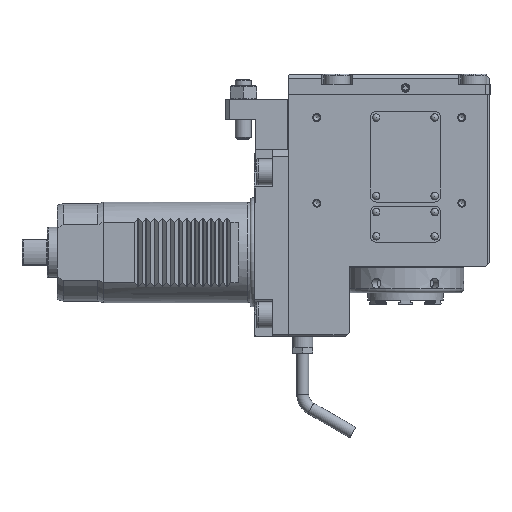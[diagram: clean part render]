
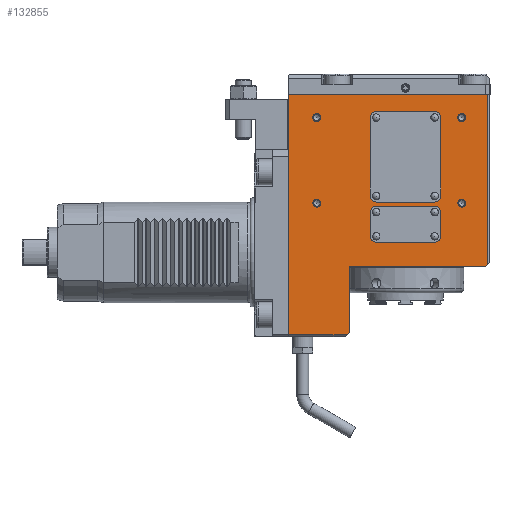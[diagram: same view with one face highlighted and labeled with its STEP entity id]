
A CAD part, front view. The second image highlights one B-rep face of the part: STEP entity #132855.
In plain terms, the highlighted planar face has unit normal (0, -1, 0) as drawn and (0, 0, -1) by its records, which use the part's own axes.
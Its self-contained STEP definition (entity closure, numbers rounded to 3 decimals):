
#47994=CIRCLE('',#127589,1.);
#47995=CIRCLE('',#127590,2.);
#47996=CIRCLE('',#127591,2.);
#47997=CIRCLE('',#127592,2.);
#47998=CIRCLE('',#127593,2.);
#47999=CIRCLE('',#127594,1.);
#48000=CIRCLE('',#127595,1.);
#48001=CIRCLE('',#127596,1.);
#48002=CIRCLE('',#127597,1.);
#48003=CIRCLE('',#127598,1.);
#48004=CIRCLE('',#127599,1.);
#48005=CIRCLE('',#127600,1.);
#52383=ORIENTED_EDGE('',*,*,#65877,.F.);
#52384=ORIENTED_EDGE('',*,*,#65880,.F.);
#52385=ORIENTED_EDGE('',*,*,#65906,.F.);
#52386=ORIENTED_EDGE('',*,*,#65907,.F.);
#52387=ORIENTED_EDGE('',*,*,#65908,.F.);
#52388=ORIENTED_EDGE('',*,*,#65892,.F.);
#52389=ORIENTED_EDGE('',*,*,#65857,.F.);
#52390=ORIENTED_EDGE('',*,*,#65862,.F.);
#52391=ORIENTED_EDGE('',*,*,#65909,.F.);
#52392=ORIENTED_EDGE('',*,*,#65910,.F.);
#52393=ORIENTED_EDGE('',*,*,#65911,.F.);
#52394=ORIENTED_EDGE('',*,*,#65912,.F.);
#52395=ORIENTED_EDGE('',*,*,#65913,.F.);
#52396=ORIENTED_EDGE('',*,*,#65914,.F.);
#52397=ORIENTED_EDGE('',*,*,#65915,.F.);
#52398=ORIENTED_EDGE('',*,*,#65916,.F.);
#52399=ORIENTED_EDGE('',*,*,#65917,.F.);
#52400=ORIENTED_EDGE('',*,*,#65918,.F.);
#52401=ORIENTED_EDGE('',*,*,#65919,.F.);
#52402=ORIENTED_EDGE('',*,*,#65920,.F.);
#58632=VECTOR('',#80571,1.);
#58636=VECTOR('',#80579,1.);
#58646=VECTOR('',#80609,1.);
#58649=VECTOR('',#80614,1.);
#58656=VECTOR('',#80637,1.);
#58661=VECTOR('',#80662,1.);
#58662=VECTOR('',#80663,1.);
#58663=VECTOR('',#80664,1.);
#60184=LINE('',#99229,#58632);
#60188=LINE('',#99239,#58636);
#60198=LINE('',#99268,#58646);
#60201=LINE('',#99274,#58649);
#60208=LINE('',#99299,#58656);
#60213=LINE('',#99327,#58661);
#60214=LINE('',#99329,#58662);
#60215=LINE('',#99330,#58663);
#62125=VERTEX_POINT('',#99226);
#62126=VERTEX_POINT('',#99228);
#62130=VERTEX_POINT('',#99237);
#62139=VERTEX_POINT('',#99266);
#62141=VERTEX_POINT('',#99272);
#62151=VERTEX_POINT('',#99298);
#62164=VERTEX_POINT('',#99326);
#62165=VERTEX_POINT('',#99328);
#62166=VERTEX_POINT('',#99331);
#62167=VERTEX_POINT('',#99333);
#62168=VERTEX_POINT('',#99335);
#62169=VERTEX_POINT('',#99337);
#62170=VERTEX_POINT('',#99339);
#62171=VERTEX_POINT('',#99341);
#62172=VERTEX_POINT('',#99343);
#62173=VERTEX_POINT('',#99345);
#62174=VERTEX_POINT('',#99347);
#62175=VERTEX_POINT('',#99349);
#62176=VERTEX_POINT('',#99351);
#62177=VERTEX_POINT('',#99353);
#65857=EDGE_CURVE('',#62125,#62126,#60184,.T.);
#65862=EDGE_CURVE('',#62130,#62125,#60188,.T.);
#65877=EDGE_CURVE('',#62139,#62130,#60198,.T.);
#65880=EDGE_CURVE('',#62141,#62139,#60201,.T.);
#65892=EDGE_CURVE('',#62126,#62151,#60208,.T.);
#65906=EDGE_CURVE('',#62164,#62141,#60213,.T.);
#65907=EDGE_CURVE('',#62165,#62164,#60214,.T.);
#65908=EDGE_CURVE('',#62151,#62165,#60215,.T.);
#65909=EDGE_CURVE('',#62166,#62166,#47994,.T.);
#65910=EDGE_CURVE('',#62167,#62167,#47995,.T.);
#65911=EDGE_CURVE('',#62168,#62168,#47996,.T.);
#65912=EDGE_CURVE('',#62169,#62169,#47997,.T.);
#65913=EDGE_CURVE('',#62170,#62170,#47998,.T.);
#65914=EDGE_CURVE('',#62171,#62171,#47999,.T.);
#65915=EDGE_CURVE('',#62172,#62172,#48000,.T.);
#65916=EDGE_CURVE('',#62173,#62173,#48001,.T.);
#65917=EDGE_CURVE('',#62174,#62174,#48002,.T.);
#65918=EDGE_CURVE('',#62175,#62175,#48003,.T.);
#65919=EDGE_CURVE('',#62176,#62176,#48004,.T.);
#65920=EDGE_CURVE('',#62177,#62177,#48005,.T.);
#69931=EDGE_LOOP('',(#52383,#52384,#52385,#52386,#52387,#52388,#52389,#52390));
#69932=EDGE_LOOP('',(#52391));
#69933=EDGE_LOOP('',(#52392));
#69934=EDGE_LOOP('',(#52393));
#69935=EDGE_LOOP('',(#52394));
#69936=EDGE_LOOP('',(#52395));
#69937=EDGE_LOOP('',(#52396));
#69938=EDGE_LOOP('',(#52397));
#69939=EDGE_LOOP('',(#52398));
#69940=EDGE_LOOP('',(#52399));
#69941=EDGE_LOOP('',(#52400));
#69942=EDGE_LOOP('',(#52401));
#69943=EDGE_LOOP('',(#52402));
#73853=FACE_BOUND('',#69931,.T.);
#73854=FACE_BOUND('',#69932,.T.);
#73855=FACE_BOUND('',#69933,.T.);
#73856=FACE_BOUND('',#69934,.T.);
#73857=FACE_BOUND('',#69935,.T.);
#73858=FACE_BOUND('',#69936,.T.);
#73859=FACE_BOUND('',#69937,.T.);
#73860=FACE_BOUND('',#69938,.T.);
#73861=FACE_BOUND('',#69939,.T.);
#73862=FACE_BOUND('',#69940,.T.);
#73863=FACE_BOUND('',#69941,.T.);
#73864=FACE_BOUND('',#69942,.T.);
#73865=FACE_BOUND('',#69943,.T.);
#80571=DIRECTION('',(29.,0.,0.));
#80579=DIRECTION('',(1.,-1.,0.));
#80609=DIRECTION('',(0.,-33.,0.));
#80614=DIRECTION('',(68.,0.,0.));
#80637=DIRECTION('',(0.,119.5,0.));
#80660=DIRECTION('',(0.,0.,-1.));
#80661=DIRECTION('',(0.,1.,0.));
#80662=DIRECTION('',(1.,-1.,0.));
#80663=DIRECTION('',(0.,-84.5,0.));
#80664=DIRECTION('',(-99.,0.,0.));
#80665=DIRECTION('',(0.,0.,-1.));
#80666=DIRECTION('',(0.,-1.,0.));
#80667=DIRECTION('',(0.,0.,-1.));
#80668=DIRECTION('',(0.,2.,0.));
#80669=DIRECTION('',(0.,0.,-1.));
#80670=DIRECTION('',(0.,2.,0.));
#80671=DIRECTION('',(0.,0.,-1.));
#80672=DIRECTION('',(0.,2.,0.));
#80673=DIRECTION('',(0.,0.,-1.));
#80674=DIRECTION('',(0.,2.,0.));
#80675=DIRECTION('',(0.,0.,-1.));
#80676=DIRECTION('',(0.,-1.,0.));
#80677=DIRECTION('',(0.,0.,-1.));
#80678=DIRECTION('',(0.,-1.,0.));
#80679=DIRECTION('',(0.,0.,-1.));
#80680=DIRECTION('',(0.,-1.,0.));
#80681=DIRECTION('',(0.,0.,-1.));
#80682=DIRECTION('',(0.,-1.,0.));
#80683=DIRECTION('',(0.,0.,-1.));
#80684=DIRECTION('',(0.,-1.,0.));
#80685=DIRECTION('',(0.,0.,-1.));
#80686=DIRECTION('',(0.,-1.,0.));
#80687=DIRECTION('',(0.,0.,-1.));
#80688=DIRECTION('',(0.,-1.,0.));
#99226=CARTESIAN_POINT('',(345.747,406.14,0.));
#99228=CARTESIAN_POINT('',(374.747,406.14,0.));
#99229=CARTESIAN_POINT('',(345.747,406.14,0.));
#99237=CARTESIAN_POINT('',(344.747,407.14,0.));
#99239=CARTESIAN_POINT('',(344.747,407.14,0.));
#99266=CARTESIAN_POINT('',(344.747,440.14,0.));
#99268=CARTESIAN_POINT('',(344.747,440.14,0.));
#99272=CARTESIAN_POINT('',(276.747,440.14,0.));
#99274=CARTESIAN_POINT('',(276.747,440.14,0.));
#99298=CARTESIAN_POINT('',(374.747,525.64,0.));
#99299=CARTESIAN_POINT('',(374.747,406.14,0.));
#99325=CARTESIAN_POINT('',(344.747,440.14,0.));
#99326=CARTESIAN_POINT('',(275.747,441.14,0.));
#99327=CARTESIAN_POINT('',(275.747,441.14,0.));
#99328=CARTESIAN_POINT('',(275.747,525.64,0.));
#99329=CARTESIAN_POINT('',(275.747,525.64,0.));
#99330=CARTESIAN_POINT('',(374.747,525.64,0.));
#99331=CARTESIAN_POINT('',(331.247,513.14,0.));
#99332=CARTESIAN_POINT('',(331.247,514.14,0.));
#99333=CARTESIAN_POINT('',(360.747,473.64,0.));
#99334=CARTESIAN_POINT('',(360.747,471.64,0.));
#99335=CARTESIAN_POINT('',(288.747,516.14,0.));
#99336=CARTESIAN_POINT('',(288.747,514.14,0.));
#99337=CARTESIAN_POINT('',(288.747,473.64,0.));
#99338=CARTESIAN_POINT('',(288.747,471.64,0.));
#99339=CARTESIAN_POINT('',(360.747,516.14,0.));
#99340=CARTESIAN_POINT('',(360.747,514.14,0.));
#99341=CARTESIAN_POINT('',(302.247,454.14,0.));
#99342=CARTESIAN_POINT('',(302.247,455.14,0.));
#99343=CARTESIAN_POINT('',(331.247,454.14,0.));
#99344=CARTESIAN_POINT('',(331.247,455.14,0.));
#99345=CARTESIAN_POINT('',(302.247,466.14,0.));
#99346=CARTESIAN_POINT('',(302.247,467.14,0.));
#99347=CARTESIAN_POINT('',(331.247,466.14,0.));
#99348=CARTESIAN_POINT('',(331.247,467.14,0.));
#99349=CARTESIAN_POINT('',(302.247,474.14,0.));
#99350=CARTESIAN_POINT('',(302.247,475.14,0.));
#99351=CARTESIAN_POINT('',(331.247,474.14,0.));
#99352=CARTESIAN_POINT('',(331.247,475.14,0.));
#99353=CARTESIAN_POINT('',(302.247,513.14,0.));
#99354=CARTESIAN_POINT('',(302.247,514.14,0.));
#127588=AXIS2_PLACEMENT_3D('',#99325,#80660,#80661);
#127589=AXIS2_PLACEMENT_3D('',#99332,#80665,#80666);
#127590=AXIS2_PLACEMENT_3D('',#99334,#80667,#80668);
#127591=AXIS2_PLACEMENT_3D('',#99336,#80669,#80670);
#127592=AXIS2_PLACEMENT_3D('',#99338,#80671,#80672);
#127593=AXIS2_PLACEMENT_3D('',#99340,#80673,#80674);
#127594=AXIS2_PLACEMENT_3D('',#99342,#80675,#80676);
#127595=AXIS2_PLACEMENT_3D('',#99344,#80677,#80678);
#127596=AXIS2_PLACEMENT_3D('',#99346,#80679,#80680);
#127597=AXIS2_PLACEMENT_3D('',#99348,#80681,#80682);
#127598=AXIS2_PLACEMENT_3D('',#99350,#80683,#80684);
#127599=AXIS2_PLACEMENT_3D('',#99352,#80685,#80686);
#127600=AXIS2_PLACEMENT_3D('',#99354,#80687,#80688);
#131356=PLANE('',#127588);
#132855=ADVANCED_FACE('',(#73853,#73854,#73855,#73856,#73857,#73858,#73859,
#73860,#73861,#73862,#73863,#73864,#73865),#131356,.T.);
